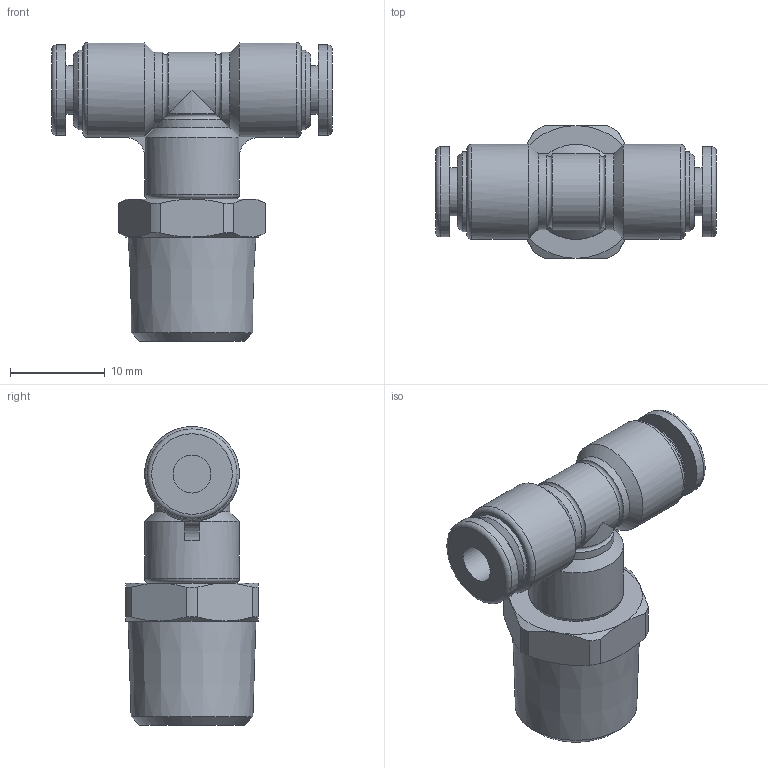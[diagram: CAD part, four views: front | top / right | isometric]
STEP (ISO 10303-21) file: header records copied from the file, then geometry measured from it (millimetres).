
FILE_DESCRIPTION(/* description */ (''),/* implementation_level */ '2;1');
FILE_NAME(/* name */ 'E:\2013年度版　3D-DATA\【02】 TOUCH CONNECTOR FIVE SUS\[03] MALE BRANCH TEE\[03] FS4-02MT FS4-02MTW.stp',/* time_stamp */ '2013-08-06T16:53:59+09:00',/* author */ ('takahashi-pc2'),/* organization */ (''),/* preprocessor_version */ 'ST-DEVELOPER v15.2',/* originating_system */ 'Autodesk Inventor 2014',/* authorisation */ '');
FILE_SCHEMA (('AUTOMOTIVE_DESIGN { 1 0 10303 214 3 1 1 }'));
Length unit declared in the file: millimetre
Products named in the file (1): [03] FS4-02MT FS4-02MTW
Bounding box: 29.6 x 14 x 31.5 mm (x, y, z)
Volume: 4334.4 mm3; surface area: 2577.3 mm2
Topology: 1 solids, 1 shells, 86 faces, 194 edges, 120 vertices
Faces by surface type: plane 31, cylinder 26, cone 20, torus 9
Full cylindrical faces by diameter (mm): 4 x2, 5.1 x2, 8.4 x2, 9.5 x2, 10 x3
Entity records: 2355 total; most frequent: CARTESIAN_POINT 531, DIRECTION 396, ORIENTED_EDGE 346, AXIS2_PLACEMENT_3D 176, EDGE_CURVE 173, VERTEX_POINT 119, EDGE_LOOP 116, ADVANCED_FACE 86
